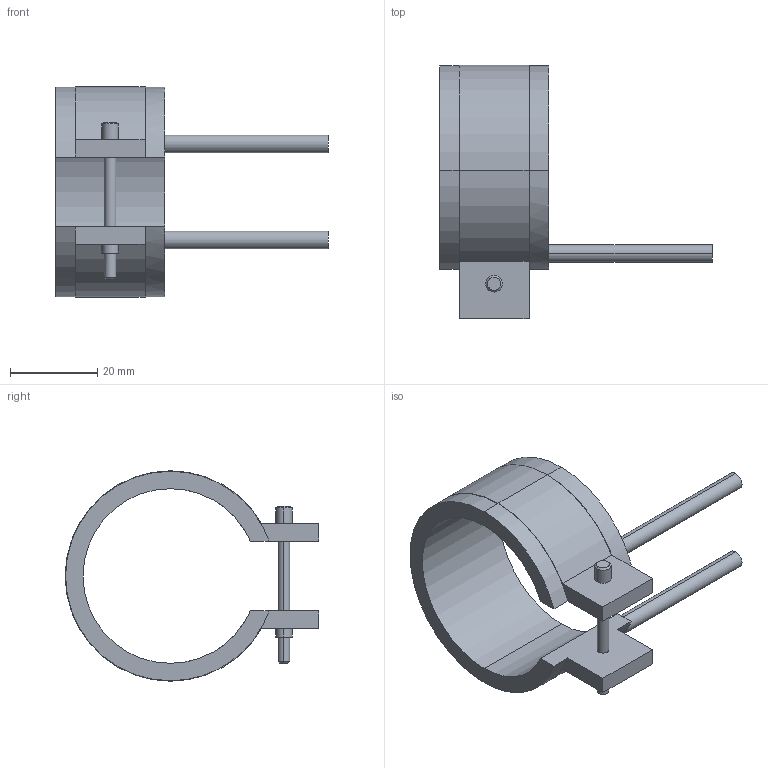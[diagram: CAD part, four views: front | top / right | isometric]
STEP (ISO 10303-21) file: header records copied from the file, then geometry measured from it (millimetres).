
FILE_DESCRIPTION(('CATIA V5 STEP Exchange'),'2;1');
FILE_NAME('C:\Users\Utente\Desktop\IO LAVORO\3D X SITO CF\X SITO\PLASTICA\RF2\14040025.stp','2021-03-31T11:33:39+00:00',('none'),('none'),'CATIA Version 5 Release 20 GA (IN-10)','CATIA V5 STEP AP203','none');
FILE_SCHEMA(('CONFIG_CONTROL_DESIGN'));
Length unit declared in the file: millimetre
Products named in the file (1): 14040025
Bounding box: 62.5 x 58.1 x 48.2 mm (x, y, z)
Volume: 15083 mm3; surface area: 9465 mm2
Topology: 1 solids, 1 shells, 45 faces, 116 edges, 76 vertices
Faces by surface type: cylinder 24, plane 17, cone 4
Entity records: 1394 total; most frequent: CARTESIAN_POINT 268, ORIENTED_EDGE 232, DIRECTION 196, EDGE_CURVE 116, AXIS2_PLACEMENT_3D 104, VERTEX_POINT 76, CIRCLE 62, VECTOR 52
